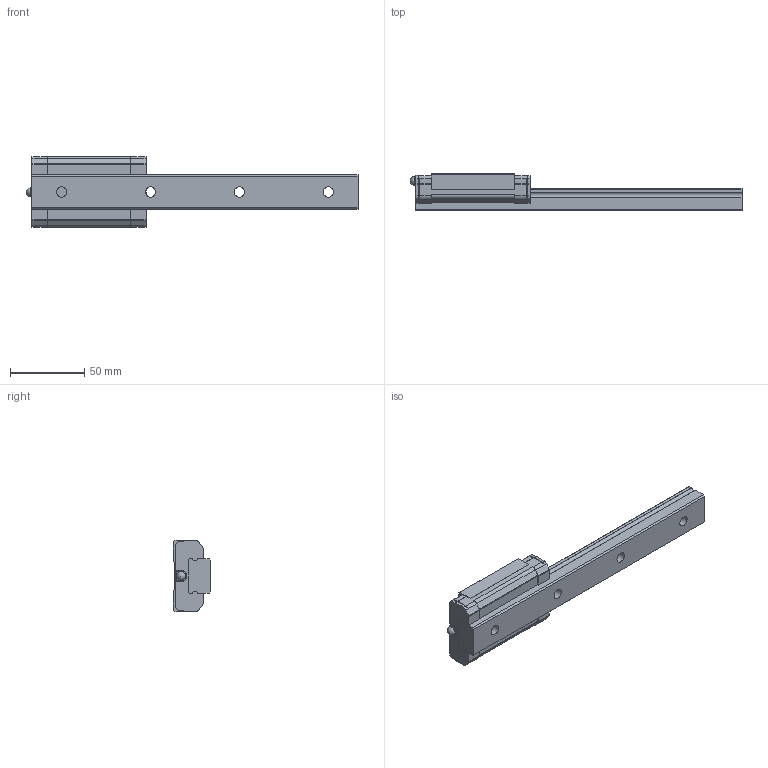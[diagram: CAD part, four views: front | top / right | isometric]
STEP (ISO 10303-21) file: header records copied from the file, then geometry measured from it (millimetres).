
FILE_DESCRIPTION(/* description */ ('STEP AP203'),/* implementation_level */ '2;1');
FILE_NAME(/* name */ 'SRS25GMSS-220LM_G20_0_PB1021B_0_0_0_0_1',/* time_stamp */ '2024-05-17T10:24:54+02:00',/* author */ ('License CC BY-ND 4.0'),/* organization */ ('CADENAS'),/* preprocessor_version */ 'ST-DEVELOPER v19.3',/* originating_system */ 'PARTsolutions',/* authorisation */ ' ');
FILE_SCHEMA (('CONFIG_CONTROL_DESIGN'));
Length unit declared in the file: millimetre
Products named in the file (4): SRS25GMSS-220LM_G20_0_PB1021B_0_0_0_0_1; SRS25GM22020 Track; SRS25GMSSPB1021B1 Slider; PB1021B-SRS Grease Nipple Joint
Assembly tree (3 placements, depth 2):
  SRS25GMSS-220LM_G20_0_PB1021B_0_0_0_0_1
    SRS25GM22020 Track
    SRS25GMSSPB1021B1 Slider
    PB1021B-SRS Grease Nipple Joint
Bounding box: 224 x 25 x 48 mm (x, y, z)
Volume: 120944.2 mm3; surface area: 32688.6 mm2
Topology: 3 solids, 3 shells, 173 faces, 456 edges, 296 vertices
Faces by surface type: plane 119, cylinder 45, cone 8, sphere 1
Full cylindrical faces by diameter (mm): 4 x3, 4.917 x4, 6 x1, 7 x4, 7.5 x1, 11 x4
Entity records: 5213 total; most frequent: CARTESIAN_POINT 887, DIRECTION 876, ORIENTED_EDGE 840, EDGE_CURVE 420, LINE 318, VECTOR 318, VERTEX_POINT 290, AXIS2_PLACEMENT_3D 279
